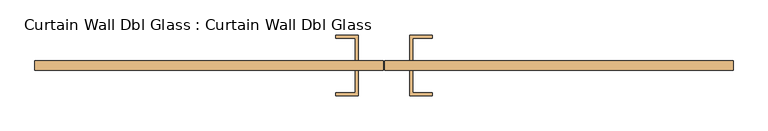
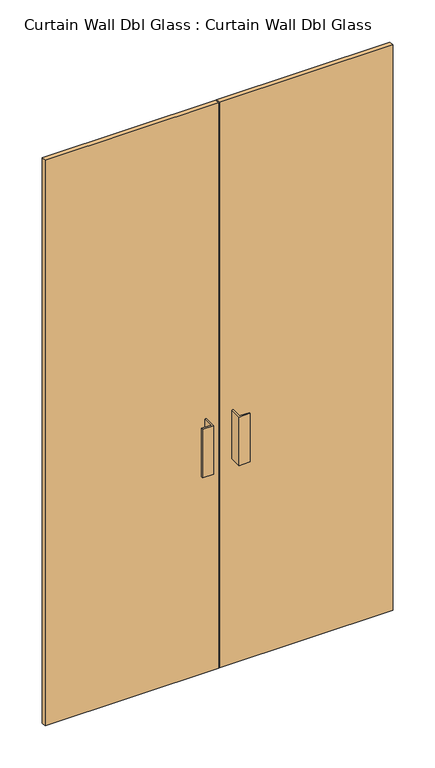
"""IFC4 building model written with IfcOpenShell, lengths in millimetres: door geometry, Curtain Wall Dbl Glass : Curtain Wall Dbl Glass."""

from ifc_helpers import new_model, si_unit, frame, origin, origin_with_axes, place, context, project, spatial, polyline, outline, extrude, source, transform, mapped, element, save


def curtain_wall_dbl_glass_curtain_wall_dbl_glass_523d1701(model_context):
    return source(origin(), model_context, "Body", "SweptSolid", [
        extrude(outline(polyline([(-1.5875, -19.05), (-691.35625, -19.05), (-691.35625, 0.0), (-1.5875, 0.0), (-1.5875, -19.05)])), origin_with_axes(), (0.0, 0.0, 1.0), 2374.9),
        extrude(outline(polyline([(691.35625, -19.05), (1.5875, -19.05), (1.5875, 0.0), (691.35625, 0.0), (691.35625, -19.05)])), origin_with_axes(), (0.0, 0.0, 1.0), 2374.9),
        extrude(outline(polyline([(-50.8, 50.8), (-50.8, 0.0), (-57.15, 0.0), (-57.15, 44.45), (-95.25, 44.45), (-95.25, 50.8), (-50.8, 50.8)])), frame((0.0, 0.0, 863.6), z_axis=(0.0, 0.0, 1.0), x_axis=(1.0, 0.0, 0.0)), (0.0, 0.0, 1.0), 203.2),
        extrude(outline(polyline([(50.8, 50.8), (95.25, 50.8), (95.25, 44.45), (57.15, 44.45), (57.15, 0.0), (50.8, 0.0), (50.8, 50.8)])), frame((0.0, 0.0, 863.6), z_axis=(0.0, 0.0, 1.0), x_axis=(1.0, 0.0, 0.0)), (0.0, 0.0, 1.0), 203.2),
        extrude(outline(polyline([(-50.8, -69.85), (-95.25, -69.85), (-95.25, -63.5), (-57.15, -63.5), (-57.15, -19.05), (-50.8, -19.05), (-50.8, -69.85)])), frame((0.0, 0.0, 863.6), z_axis=(0.0, 0.0, 1.0), x_axis=(1.0, 0.0, 0.0)), (0.0, 0.0, 1.0), 203.2),
        extrude(outline(polyline([(50.8, -69.85), (50.8, -19.05), (57.15, -19.05), (57.15, -63.5), (95.25, -63.5), (95.25, -69.85), (50.8, -69.85)])), frame((0.0, 0.0, 863.6), z_axis=(0.0, 0.0, 1.0), x_axis=(1.0, 0.0, 0.0)), (0.0, 0.0, 1.0), 203.2),
    ])


if __name__ == "__main__":
    model = new_model("IFC4")
    model_context = context("Model", 3, world=origin())
    ifc_project = project(units=[si_unit("LENGTHUNIT", "METRE", prefix="MILLI")], contexts=[model_context])
    site = spatial("IfcSite", under=ifc_project)
    building = spatial("IfcBuilding", under=site)
    placement = place(None, origin())
    curtain_wall_dbl_glass_curtain_wall_dbl_glass_shape = curtain_wall_dbl_glass_curtain_wall_dbl_glass_523d1701(model_context)
    element("IfcDoor", 1, ObjectType="Curtain Wall Dbl Glass : Curtain Wall Dbl Glass", at=placement, inside=building, context=model_context, shape_type="MappedRepresentation", body=[
        mapped(curtain_wall_dbl_glass_curtain_wall_dbl_glass_shape, transform((0.0, 0.0, 0.0), x_axis=(1.0, 0.0, 0.0), y_axis=(0.0, 1.0, 0.0), z_axis=(0.0, 0.0, 1.0))),
    ])
    save(model, "model.ifc")
